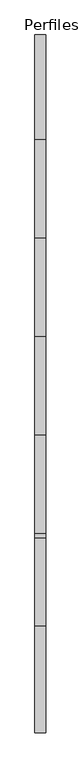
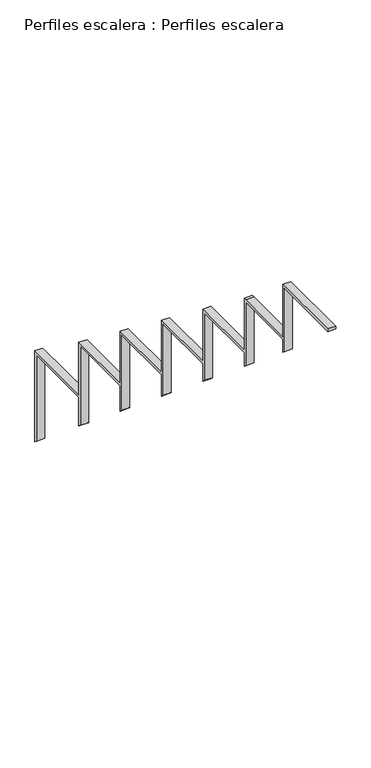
"""IFC4 building model written with IfcOpenShell, lengths in millimetres: beam geometry, Perfiles escalera : Perfiles escalera."""

from ifc_helpers import new_model, si_unit, frame, origin, place, context, project, spatial, polyline, outline, extrude, source, transform, mapped, element, save


def perfiles_escalera_perfiles_escalera_c456e6f7(model_context):
    return source(origin(), model_context, "Body", "SweptSolid", [
        extrude(outline(polyline([(4844.6072273, 1647.8791191), (4832.5011677, 1657.6279004), (4832.5011677, 1996.0), (4560.321513, 1996.0), (4560.321513, 1882.1676426), (4550.321513, 1890.6392019), (4550.321513, 2201.6), (4293.1786559, 2201.6), (4293.1786559, 2103.0700948), (4283.1786559, 2111.5416541), (4283.1786559, 2407.2), (4026.0357987, 2407.2), (4026.0357987, 2323.9725471), (4016.0357987, 2332.4441064), (4016.0357987, 2612.8), (3758.8929416, 2612.8), (3758.8929416, 2543.3465586), (3748.8929416, 2553.3465586), (3748.8929416, 2818.4), (3491.7500845, 2818.4), (3491.7500845, 2766.1961995), (3481.7500845, 2774.2490108), (3481.7500845, 3024.0), (3241.7500845, 3024.0), (3241.7500845, 2972.9230933), (3231.7500845, 2980.9759046), (3231.7500845, 3229.6), (2951.7500845, 3229.6), (2951.7500845, 3239.6), (3241.7500845, 3239.6), (3241.7500845, 3034.0), (3481.7500845, 3034.0), (3491.7500845, 3034.0), (3491.7500845, 2828.4), (3758.8929416, 2828.4), (3758.8929416, 2622.8), (4026.0357987, 2622.8), (4026.0357987, 2417.2), (4293.1786559, 2417.2), (4293.1786559, 2211.6), (4560.321513, 2211.6), (4560.321513, 2006.0), (4844.6072273, 2006.0), (4844.6072273, 1647.8791191)])), frame((7569.5983807, 0.0, 0.0), z_axis=(1.0, 0.0, 0.0), x_axis=(0.0, 1.0, 0.0)), (0.0, 0.0, 1.0), 30.0),
    ])


if __name__ == "__main__":
    model = new_model("IFC4")
    model_context = context("Model", 3, world=origin())
    ifc_project = project(units=[si_unit("LENGTHUNIT", "METRE", prefix="MILLI")], contexts=[model_context])
    site = spatial("IfcSite", under=ifc_project)
    building = spatial("IfcBuilding", under=site)
    placement = place(None, origin())
    perfiles_escalera_perfiles_escalera_shape = perfiles_escalera_perfiles_escalera_c456e6f7(model_context)
    element("IfcBeam", 1, ObjectType="Perfiles escalera : Perfiles escalera", at=placement, inside=building, context=model_context, shape_type="MappedRepresentation", body=[
        mapped(perfiles_escalera_perfiles_escalera_shape, transform((0.0, 0.0, 0.0), x_axis=(1.0, 0.0, 0.0), y_axis=(0.0, 1.0, 0.0), z_axis=(0.0, 0.0, 1.0))),
    ])
    save(model, "model.ifc")
